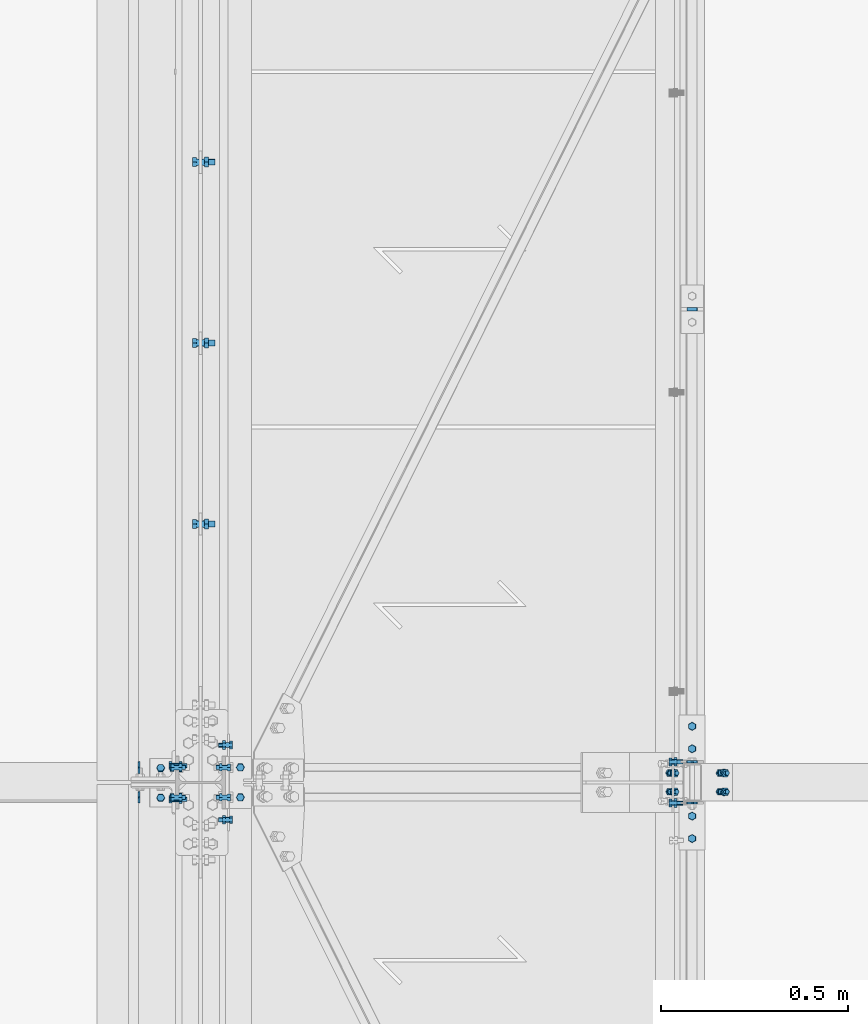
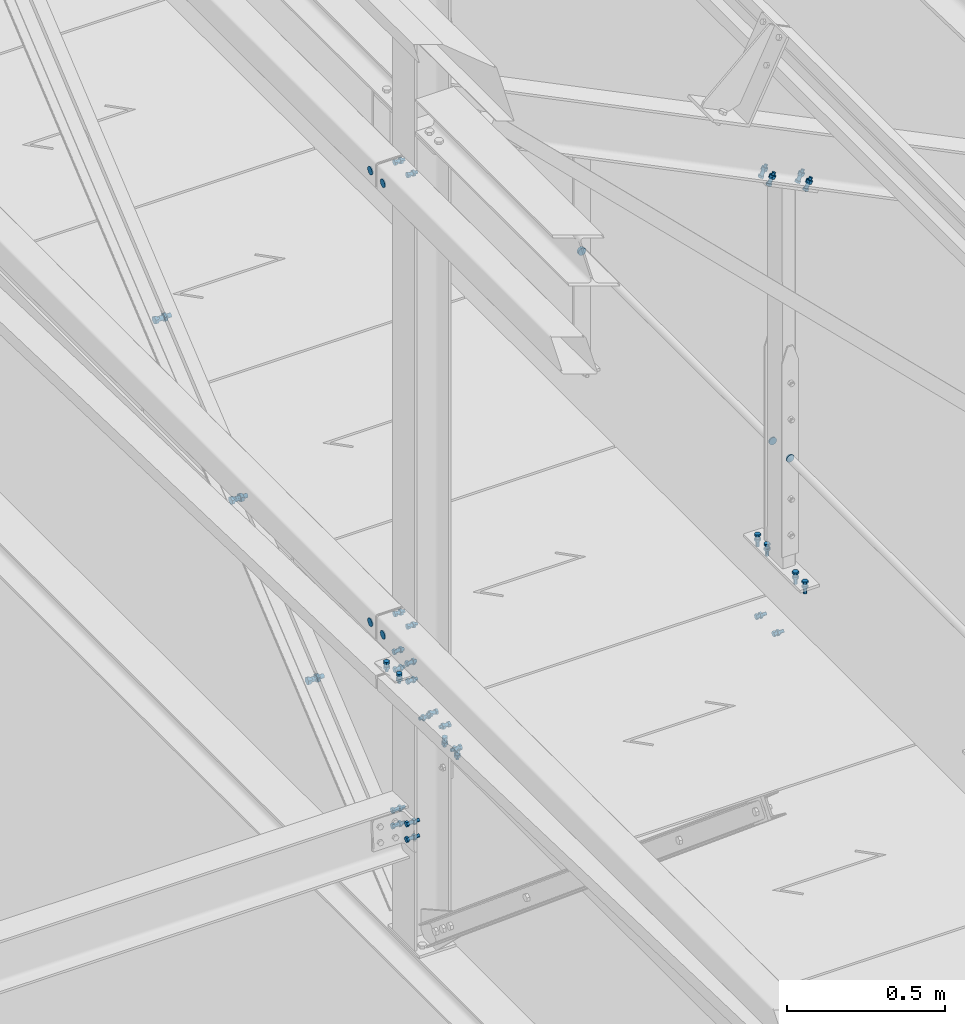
# One storey, part 324 of 362: 36 mechanical fasteners.
"""IFC2X3 building model written with IfcOpenShell, lengths in millimetres."""

from ifc_helpers import new_model, si_unit, frame, origin_with_axes, origin_2d_with_axis, place, context, subcontext, project, spatial, polyline, circle, outline, extrude, source, transform, mapped, material, type_object, element, save


model = new_model("IFC2X3")

# Units and contexts
model_context = context("Model", 3, precision=1e-05, world=origin_with_axes())
body_context = subcontext(model_context, "Body", "Model", "MODEL_VIEW")
ifc_project = project(units=[si_unit("LENGTHUNIT", "METRE", prefix="MILLI"), si_unit("AREAUNIT", "SQUARE_METRE"), si_unit("VOLUMEUNIT", "CUBIC_METRE"), si_unit("MASSUNIT", "GRAM", prefix="KILO"), si_unit("TIMEUNIT", "SECOND"), si_unit("PLANEANGLEUNIT", "RADIAN"), si_unit("SOLIDANGLEUNIT", "STERADIAN"), si_unit("THERMODYNAMICTEMPERATUREUNIT", "DEGREE_CELSIUS"), si_unit("LUMINOUSINTENSITYUNIT", "LUMEN")], contexts=[model_context])

# Site, building, storey
site_placement = place(None, origin_with_axes())
site = spatial("IfcSite", under=ifc_project, at=site_placement, Name="Undefined", CompositionType="ELEMENT")
building_placement = place(site_placement, origin_with_axes())
building = spatial("IfcBuilding", under=site, at=building_placement, Name="Undefined", CompositionType="ELEMENT")
storey_placement = place(building_placement, origin_with_axes())
storey = spatial("IfcBuildingStorey", under=building, at=storey_placement, Name="Undefined", CompositionType="ELEMENT", Elevation=0.0)

# Mechanical fasteners
ifc_material_1 = material(Name="6.8")
mechanical_fastener_type = type_object("IfcMechanicalFastenerType", Name="Bolt assembly")
shared_shape_1 = source(origin_with_axes(), body_context, "Body", "SweptSolid", [
    extrude(circle(Radius=15.0, at=origin_2d_with_axis()), frame((0.0, 0.0, 0.0), z_axis=(0.0, 1.0, 0.0), x_axis=(1.0, 0.0, 0.0)), (0.0, 0.0, 1.0), 4.1),
])
for number, where, z_axis, x_axis, name in (
    (1, (34113.4999999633, 7639.99203703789, 10245.0), (0.0, 1.0, 0.0), (0.0, 0.0, 1.0), "Bolt assembly"),
    (2, (34113.4999999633, 7560.0, 10245.0), (0.0, 1.0, 0.0), (0.0, 0.0, 1.0), "Bolt assembly"),
):
    element("IfcMechanicalFastener", number, at=place(storey_placement, frame(where, z_axis=z_axis, x_axis=x_axis)), inside=storey, type_object=mechanical_fastener_type, material=ifc_material_1, Name=name, NominalDiameter=30.0, NominalLength=4.0, context=body_context, shape_type="MappedRepresentation", body=[
        mapped(shared_shape_1, transform((0.0, 0.0, 0.0))),
    ])
ifc_material_2 = material(Name="8.8-SB-ZINGUE")
shared_shape_2 = source(origin_with_axes(), body_context, "Body", "SweptSolid", [
    extrude(circle(Radius=9.0, at=origin_2d_with_axis()), frame((0.0, -10.9000000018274, 0.0), z_axis=(0.0, 1.0, 0.0), x_axis=(1.0, 0.0, 0.0)), (0.0, 0.0, 1.0), 6.0),
    extrude(circle(Radius=9.0, at=origin_2d_with_axis()), frame((0.0, 4.9000000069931, 0.0), z_axis=(0.0, 1.0, 0.0), x_axis=(1.0, 0.0, 0.0)), (0.0, 0.0, 1.0), 6.1),
    extrude(circle(Radius=9.0, at=origin_2d_with_axis()), frame((0.0, -3.99999923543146, 0.0), z_axis=(0.0, 1.0, 0.0), x_axis=(1.0, 0.0, 0.0)), (0.0, 0.0, 1.0), 8.0),
    extrude(outline(polyline([(13.85640646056, 0.0), (6.92820323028, 12.0000000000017), (-6.92820323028, 12.0000000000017), (-13.85640646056, 0.0), (-6.92820323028, -12.0000000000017), (6.92820323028, -12.0000000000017), (13.85640646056, 0.0)])), frame((0.0, -21.5600000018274, 0.0), z_axis=(0.0, 1.0, 0.0), x_axis=(1.0, 0.0, 0.0)), (0.0, 0.0, 1.0), 10.56),
    extrude(circle(Radius=8.0, at=origin_2d_with_axis()), frame((0.0, -11.0000000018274, 0.0), z_axis=(0.0, 1.0, 0.0), x_axis=(1.0, 0.0, 0.0)), (0.0, 0.0, 1.0), 50.0),
    extrude(outline(polyline([(15.3344231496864, 0.0), (7.6672115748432, 13.2800000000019), (-7.6672115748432, 13.2800000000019), (-15.3344231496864, 0.0), (-7.6672115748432, -13.2800000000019), (7.6672115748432, -13.2800000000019), (15.3344231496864, 0.0)])), frame((0.0, 11.0000000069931, 0.0), z_axis=(0.0, 1.0, 0.0), x_axis=(1.0, 0.0, 0.0)), (0.0, 0.0, 1.0), 10.56),
])
for number, where, z_axis, x_axis, name in (
    (3, (34280.0, 8290.89269270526, 7826.89539649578), (0.0, 1.0, 0.0), (0.0, 0.0, 1.0), "Bolt assembly"),
    (4, (34280.0, 8774.53561582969, 8230.73723767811), (0.0, 1.0, 0.0), (0.0, 0.0, 1.0), "Bolt assembly"),
    (5, (34280.0, 9258.17853895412, 8634.57907886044), (0.0, 1.0, 0.0), (0.0, 0.0, 1.0), "Bolt assembly"),
):
    element("IfcMechanicalFastener", number, at=place(storey_placement, frame(where, z_axis=z_axis, x_axis=x_axis)), inside=storey, type_object=mechanical_fastener_type, material=ifc_material_2, Name=name, NominalDiameter=16.0, NominalLength=50.0, context=body_context, shape_type="MappedRepresentation", body=[
        mapped(shared_shape_2, transform((0.0, 0.0, 0.0))),
    ])
shared_shape_3 = source(origin_with_axes(), body_context, "Body", "SweptSolid", [
    extrude(circle(Radius=7.0, at=origin_2d_with_axis()), frame((0.0, -10.0000010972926, 0.0), z_axis=(0.0, 1.0, 0.0), x_axis=(1.0, 0.0, 0.0)), (0.0, 0.0, 1.0), 10.1),
    extrude(outline(polyline([(10.39230484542, 0.0), (5.19615242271, 9.00000000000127), (-5.19615242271, 9.00000000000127), (-10.39230484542, 0.0), (-5.19615242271, -9.00000000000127), (5.19615242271, -9.00000000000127), (10.39230484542, 0.0)])), frame((0.0, -17.92, 0.0), z_axis=(0.0, 1.0, 0.0), x_axis=(1.0, 0.0, 0.0)), (0.0, 0.0, 1.0), 7.92),
    extrude(circle(Radius=6.0, at=origin_2d_with_axis()), frame((0.0, -10.0000010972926, 0.0), z_axis=(0.0, 1.0, 0.0), x_axis=(1.0, 0.0, 0.0)), (0.0, 0.0, 1.0), 40.0),
    extrude(outline(polyline([(11.5008173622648, 0.0), (5.7504086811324, 9.96000000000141), (-5.7504086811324, 9.96000000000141), (-11.5008173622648, 0.0), (-5.7504086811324, -9.96000000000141), (5.7504086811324, -9.96000000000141), (11.5008173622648, 0.0)])), frame((0.0, 0.0, 0.0), z_axis=(0.0, 1.0, 0.0), x_axis=(1.0, 0.0, 0.0)), (0.0, 0.0, 1.0), 7.92),
])
for number, where, z_axis, x_axis, name in (
    (6, (35593.9917140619, 7750.00010620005, 8239.99999240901), (1.0, 0.0, 0.0), (0.0, -1.0, 0.0), "Bolt assembly"),
    (7, (35593.9917140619, 7450.00010619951, 8240.00002612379), (-1.0, 0.0, 0.0), (0.0, 1.0, 0.0), "Bolt assembly"),
):
    element("IfcMechanicalFastener", number, at=place(storey_placement, frame(where, z_axis=z_axis, x_axis=x_axis)), inside=storey, type_object=mechanical_fastener_type, material=ifc_material_2, Name=name, NominalDiameter=12.0, NominalLength=40.0, context=body_context, shape_type="MappedRepresentation", body=[
        mapped(shared_shape_3, transform((0.0, 0.0, 0.0))),
        mapped(shared_shape_3, transform((60.0, 0.0, 0.0))),
    ])
shared_shape_4 = source(origin_with_axes(), body_context, "Body", "SweptSolid", [
    extrude(circle(Radius=14.0, at=origin_2d_with_axis()), frame((0.0, -5.00000000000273, 0.0), z_axis=(0.0, 1.0, 0.0), x_axis=(1.0, 0.0, 0.0)), (0.0, 0.0, 1.0), 10.1),
])
mechanical_fastener_1_placement = place(storey_placement, frame((35593.9917179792, 8865.00343252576, 8673.8000011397), z_axis=(0.0, 0.0, 1.0), x_axis=(-1.0, 0.0, 0.0)))
element("IfcMechanicalFastener", 8, at=mechanical_fastener_1_placement, inside=storey, type_object=mechanical_fastener_type, material=ifc_material_1, Name="Bolt assembly", NominalDiameter=27.0, NominalLength=10.0, context=body_context, shape_type="MappedRepresentation", body=[
    mapped(shared_shape_4, transform((0.0, 0.0, 0.0))),
])
shared_shape_5 = source(origin_with_axes(), body_context, "Body", "SweptSolid", [
    extrude(circle(Radius=7.0, at=origin_2d_with_axis()), frame((0.0, -4.90000000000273, 0.0), z_axis=(0.0, 1.0, 0.0), x_axis=(1.0, 0.0, 0.0)), (0.0, 0.0, 1.0), 5.0),
    extrude(circle(Radius=7.0, at=origin_2d_with_axis()), frame((0.0, -0.100011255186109, 0.0), z_axis=(0.0, 1.0, 0.0), x_axis=(1.0, 0.0, 0.0)), (0.0, 0.0, 1.0), 7.1),
    extrude(outline(polyline([(10.39230484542, 0.0), (5.19615242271, 9.00000000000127), (-5.19615242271, 9.00000000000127), (-10.39230484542, 0.0), (-5.19615242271, -9.00000000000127), (5.19615242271, -9.00000000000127), (10.39230484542, 0.0)])), frame((0.0, -12.9200004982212, 0.0), z_axis=(0.0, 1.0, 0.0), x_axis=(1.0, 0.0, 0.0)), (0.0, 0.0, 1.0), 7.92),
    extrude(circle(Radius=6.0, at=origin_2d_with_axis()), frame((0.0, -5.00000000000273, 0.0), z_axis=(0.0, 1.0, 0.0), x_axis=(1.0, 0.0, 0.0)), (0.0, 0.0, 1.0), 30.0),
    extrude(outline(polyline([(11.5008173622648, 0.0), (5.7504086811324, 9.96000000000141), (-5.7504086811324, 9.96000000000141), (-11.5008173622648, 0.0), (-5.7504086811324, -9.96000000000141), (5.7504086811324, -9.96000000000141), (11.5008173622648, 0.0)])), frame((0.0, 7.0, 0.0), z_axis=(0.0, 1.0, 0.0), x_axis=(1.0, 0.0, 0.0)), (0.0, 0.0, 1.0), 7.92),
])
for number, where, z_axis, x_axis, name in (
    (9, (34386.5000576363, 7639.99999998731, 7950.00000000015), (0.0, -1.0, 0.0), (-1.0, 0.0, 0.0), "Bolt assembly"),
    (10, (34386.5000576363, 7559.99999998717, 7950.00000000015), (0.0, -1.0, 0.0), (-1.0, 0.0, 0.0), "Bolt assembly"),
):
    element("IfcMechanicalFastener", number, at=place(storey_placement, frame(where, z_axis=z_axis, x_axis=x_axis)), inside=storey, type_object=mechanical_fastener_type, material=ifc_material_2, Name=name, NominalDiameter=12.0, NominalLength=30.0, context=body_context, shape_type="MappedRepresentation", body=[
        mapped(shared_shape_5, transform((0.0, 0.0, 0.0))),
    ])
shared_shape_6 = source(origin_with_axes(), body_context, "Body", "SweptSolid", [
    extrude(circle(Radius=14.0, at=origin_2d_with_axis()), frame((0.0, -2.5, 0.0), z_axis=(0.0, 1.0, 0.0), x_axis=(1.0, 0.0, 0.0)), (0.0, 0.0, 1.0), 5.1),
])
for number, where, z_axis, x_axis, name in (
    (11, (35593.9917170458, 7544.99999422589, 8673.80000207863), (0.0, 0.0, 1.0), (-1.0, 0.0, 0.0), "Bolt assembly"),
    (12, (35593.9917171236, 7654.99999421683, 8673.80000200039), (0.0, 0.0, 1.0), (-1.0, 0.0, 0.0), "Bolt assembly"),
):
    element("IfcMechanicalFastener", number, at=place(storey_placement, frame(where, z_axis=z_axis, x_axis=x_axis)), inside=storey, type_object=mechanical_fastener_type, material=ifc_material_1, Name=name, NominalDiameter=27.0, NominalLength=10.0, context=body_context, shape_type="MappedRepresentation", body=[
        mapped(shared_shape_6, transform((0.0, 0.0, 0.0))),
    ])
shared_shape_7 = source(origin_with_axes(), body_context, "Body", "SweptSolid", [
    extrude(circle(Radius=7.0, at=origin_2d_with_axis()), frame((0.0, -0.100011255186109, 0.0), z_axis=(0.0, 1.0, 0.0), x_axis=(1.0, 0.0, 0.0)), (0.0, 0.0, 1.0), 8.6),
    extrude(circle(Radius=7.0, at=origin_2d_with_axis()), frame((0.0, -9.9, 0.0), z_axis=(0.0, 1.0, 0.0), x_axis=(1.0, 0.0, 0.0)), (0.0, 0.0, 1.0), 10.0),
    extrude(outline(polyline([(10.39230484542, 0.0), (5.19615242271, 9.00000000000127), (-5.19615242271, 9.00000000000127), (-10.39230484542, 0.0), (-5.19615242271, -9.00000000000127), (5.19615242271, -9.00000000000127), (10.39230484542, 0.0)])), frame((0.0, -17.92, 0.0), z_axis=(0.0, 1.0, 0.0), x_axis=(1.0, 0.0, 0.0)), (0.0, 0.0, 1.0), 7.92),
    extrude(circle(Radius=6.0, at=origin_2d_with_axis()), frame((0.0, -10.0000010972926, 0.0), z_axis=(0.0, 1.0, 0.0), x_axis=(1.0, 0.0, 0.0)), (0.0, 0.0, 1.0), 40.0),
    extrude(circle(Radius=10.8, at=origin_2d_with_axis()), frame((0.0, 8.49999994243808, 0.0), z_axis=(0.0, 1.0, 0.0), x_axis=(1.0, 0.0, 0.0)), (0.0, 0.0, 1.0), 3.96),
    extrude(outline(polyline([(11.5008173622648, 0.0), (5.7504086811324, 9.96000000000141), (-5.7504086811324, 9.96000000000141), (-11.5008173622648, 0.0), (-5.7504086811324, -9.96000000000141), (5.7504086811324, -9.96000000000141), (11.5008173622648, 0.0)])), frame((0.0, 12.4599999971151, 0.0), z_axis=(0.0, 1.0, 0.0), x_axis=(1.0, 0.0, 0.0)), (0.0, 0.0, 1.0), 7.92),
])
for number, where, z_axis, x_axis, name in (
    (13, (35674.7575800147, 7600.00000000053, 9681.7944284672), (0.0, 1.0, 0.0), (-0.897398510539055, -1.29999898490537e-08, 0.441220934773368), "Bolt assembly"),
    (14, (35540.1478034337, 7600.00000000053, 9747.97756868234), (0.0, -1.0, 0.0), (0.897398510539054, 0.0, -0.44122093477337), "Bolt assembly"),
):
    element("IfcMechanicalFastener", number, at=place(storey_placement, frame(where, z_axis=z_axis, x_axis=x_axis)), inside=storey, type_object=mechanical_fastener_type, material=ifc_material_2, Name=name, NominalDiameter=12.0, NominalLength=40.0, context=body_context, shape_type="MappedRepresentation", body=[
        mapped(shared_shape_7, transform((0.0, 0.0, -25.0))),
        mapped(shared_shape_7, transform((0.0, 0.0, 25.0))),
    ])
shared_shape_8 = source(origin_with_axes(), body_context, "Body", "SweptSolid", [
    extrude(circle(Radius=7.0, at=origin_2d_with_axis()), frame((0.0, -6.5, 0.0), z_axis=(0.0, 1.0, 0.0), x_axis=(1.0, 0.0, 0.0)), (0.0, 0.0, 1.0), 6.1),
    extrude(outline(polyline([(10.39230484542, 0.0), (5.19615242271, 9.00000000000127), (-5.19615242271, 9.00000000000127), (-10.39230484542, 0.0), (-5.19615242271, -9.00000000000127), (5.19615242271, -9.00000000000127), (10.39230484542, 0.0)])), frame((0.0, -14.42, 0.0), z_axis=(0.0, 1.0, 0.0), x_axis=(1.0, 0.0, 0.0)), (0.0, 0.0, 1.0), 7.92),
    extrude(circle(Radius=6.0, at=origin_2d_with_axis()), frame((0.0, -6.5, 0.0), z_axis=(0.0, 1.0, 0.0), x_axis=(1.0, 0.0, 0.0)), (0.0, 0.0, 1.0), 30.0),
    extrude(outline(polyline([(11.5008173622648, 0.0), (5.7504086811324, 9.96000000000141), (-5.7504086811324, 9.96000000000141), (-11.5008173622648, 0.0), (-5.7504086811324, -9.96000000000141), (5.7504086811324, -9.96000000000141), (11.5008173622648, 0.0)])), frame((0.0, -0.5, 0.0), z_axis=(0.0, 1.0, 0.0), x_axis=(1.0, 0.0, 0.0)), (0.0, 0.0, 1.0), 7.92),
])
for number, where, z_axis, x_axis, name in (
    (15, (35546.4917140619, 7654.99999063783, 8015.00000000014), (0.0, 0.0, 1.0), (0.0, -1.0, 0.0), "Bolt assembly"),
    (16, (35546.4917140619, 7544.99999998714, 8015.00000000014), (0.0, 0.0, -1.0), (0.0, 1.0, 0.0), "Bolt assembly"),
):
    element("IfcMechanicalFastener", number, at=place(storey_placement, frame(where, z_axis=z_axis, x_axis=x_axis)), inside=storey, type_object=mechanical_fastener_type, material=ifc_material_2, Name=name, NominalDiameter=12.0, NominalLength=30.0, context=body_context, shape_type="MappedRepresentation", body=[
        mapped(shared_shape_8, transform((0.0, 0.0, 0.0))),
    ])
shared_shape_9 = source(origin_with_axes(), body_context, "Body", "SweptSolid", [
    extrude(circle(Radius=7.0, at=origin_2d_with_axis()), frame((0.0, -0.108038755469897, 0.0), z_axis=(0.0, 1.0, 0.0), x_axis=(1.0, 0.0, 0.0)), (0.0, 0.0, 1.0), 5.1),
    extrude(circle(Radius=7.0, at=origin_2d_with_axis()), frame((0.0, -6.4, 0.0), z_axis=(0.0, 1.0, 0.0), x_axis=(1.0, 0.0, 0.0)), (0.0, 0.0, 1.0), 6.0),
    extrude(outline(polyline([(10.39230484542, 0.0), (5.19615242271, 9.00000000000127), (-5.19615242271, 9.00000000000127), (-10.39230484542, 0.0), (-5.19615242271, -9.00000000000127), (5.19615242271, -9.00000000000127), (10.39230484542, 0.0)])), frame((0.0, -14.42, 0.0), z_axis=(0.0, 1.0, 0.0), x_axis=(1.0, 0.0, 0.0)), (0.0, 0.0, 1.0), 7.92),
    extrude(circle(Radius=6.0, at=origin_2d_with_axis()), frame((0.0, -6.5, 0.0), z_axis=(0.0, 1.0, 0.0), x_axis=(1.0, 0.0, 0.0)), (0.0, 0.0, 1.0), 30.0),
    extrude(outline(polyline([(11.5008173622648, 0.0), (5.7504086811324, 9.96000000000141), (-5.7504086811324, 9.96000000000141), (-11.5008173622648, 0.0), (-5.7504086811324, -9.96000000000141), (5.7504086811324, -9.96000000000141), (11.5008173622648, 0.0)])), frame((0.0, 4.99200112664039, 0.0), z_axis=(0.0, 1.0, 0.0), x_axis=(1.0, 0.0, 0.0)), (0.0, 0.0, 1.0), 7.92),
])
for number, where, z_axis, x_axis, name in (
    (17, (34351.491943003, 7699.99999998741, 8015.00000000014), (0.0, 0.0, -1.0), (0.0, -1.0, 0.0), "Bolt assembly"),
    (18, (34351.491943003, 7499.99999998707, 8015.00000000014), (0.0, 0.0, 1.0), (0.0, 1.0, 0.0), "Bolt assembly"),
):
    element("IfcMechanicalFastener", number, at=place(storey_placement, frame(where, z_axis=z_axis, x_axis=x_axis)), inside=storey, type_object=mechanical_fastener_type, material=ifc_material_2, Name=name, NominalDiameter=12.0, NominalLength=30.0, context=body_context, shape_type="MappedRepresentation", body=[
        mapped(shared_shape_9, transform((0.0, 0.0, 0.0))),
    ])
shared_shape_10 = source(origin_with_axes(), body_context, "Body", "SweptSolid", [
    extrude(circle(Radius=7.0, at=origin_2d_with_axis()), frame((0.0, -0.0999426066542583, 0.0), z_axis=(0.0, 1.0, 0.0), x_axis=(1.0, 0.0, 0.0)), (0.0, 0.0, 1.0), 8.6),
    extrude(circle(Radius=7.0, at=origin_2d_with_axis()), frame((0.0, -4.89988938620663, 0.0), z_axis=(0.0, 1.0, 0.0), x_axis=(1.0, 0.0, 0.0)), (0.0, 0.0, 1.0), 5.0),
    extrude(outline(polyline([(10.39230484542, 0.0), (5.19615242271, 9.00000000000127), (-5.19615242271, 9.00000000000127), (-10.39230484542, 0.0), (-5.19615242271, -9.00000000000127), (5.19615242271, -9.00000000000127), (10.39230484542, 0.0)])), frame((0.0, -12.9198893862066, 0.0), z_axis=(0.0, 1.0, 0.0), x_axis=(1.0, 0.0, 0.0)), (0.0, 0.0, 1.0), 7.92),
    extrude(circle(Radius=6.0, at=origin_2d_with_axis()), frame((0.0, -4.99988938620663, 0.0), z_axis=(0.0, 1.0, 0.0), x_axis=(1.0, 0.0, 0.0)), (0.0, 0.0, 1.0), 30.0),
    extrude(outline(polyline([(11.5008173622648, 0.0), (5.7504086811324, 9.96000000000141), (-5.7504086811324, 9.96000000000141), (-11.5008173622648, 0.0), (-5.7504086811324, -9.96000000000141), (5.7504086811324, -9.96000000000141), (11.5008173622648, 0.0)])), frame((0.0, 8.50005763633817, 0.0), z_axis=(0.0, 1.0, 0.0), x_axis=(1.0, 0.0, 0.0)), (0.0, 0.0, 1.0), 7.92),
])
for number, where, z_axis, x_axis, name in (
    (19, (34346.5000576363, 7560.00000098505, 8070.00000000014), (0.0, 1.0, 0.0), (0.0, 0.0, -1.0), "Bolt assembly"),
    (20, (34346.5000576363, 7640.00000098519, 8070.00000000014), (0.0, 1.0, 0.0), (0.0, 0.0, -1.0), "Bolt assembly"),
):
    element("IfcMechanicalFastener", number, at=place(storey_placement, frame(where, z_axis=z_axis, x_axis=x_axis)), inside=storey, type_object=mechanical_fastener_type, material=ifc_material_2, Name=name, NominalDiameter=12.0, NominalLength=30.0, context=body_context, shape_type="MappedRepresentation", body=[
        mapped(shared_shape_10, transform((0.0, 0.0, 0.0))),
    ])
shared_shape_11 = source(origin_with_axes(), body_context, "Body", "SweptSolid", [
    extrude(circle(Radius=15.0, at=origin_2d_with_axis()), frame((0.0, -0.000130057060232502, 0.0), z_axis=(0.0, 1.0, 0.0), x_axis=(1.0, 0.0, 0.0)), (0.0, 0.0, 1.0), 4.1),
])
for number, where, z_axis, x_axis, name in (
    (21, (34113.5001162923, 7639.99203703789, 8500.0), (0.0, -1.0, 0.0), (0.0, 0.0, -1.0), "Bolt assembly"),
    (22, (34113.5001162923, 7560.0, 8500.0), (0.0, -1.0, 0.0), (0.0, 0.0, -1.0), "Bolt assembly"),
):
    element("IfcMechanicalFastener", number, at=place(storey_placement, frame(where, z_axis=z_axis, x_axis=x_axis)), inside=storey, type_object=mechanical_fastener_type, material=ifc_material_1, Name=name, NominalDiameter=30.0, NominalLength=4.0, context=body_context, shape_type="MappedRepresentation", body=[
        mapped(shared_shape_11, transform((0.0, 0.0, 0.0))),
    ])
shared_shape_12 = source(origin_with_axes(), body_context, "Body", "SweptSolid", [
    extrude(circle(Radius=7.0, at=origin_2d_with_axis()), frame((0.0, -1.35617756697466, 0.0), z_axis=(0.0, 1.0, 0.0), x_axis=(1.0, 0.0, 0.0)), (0.0, 0.0, 1.0), 4.1),
    extrude(circle(Radius=7.0, at=origin_2d_with_axis()), frame((0.0, -8.15617756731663, 0.0), z_axis=(0.0, 1.0, 0.0), x_axis=(1.0, 0.0, 0.0)), (0.0, 0.0, 1.0), 7.0),
    extrude(outline(polyline([(10.39230484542, 0.0), (5.19615242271, 9.00000000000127), (-5.19615242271, 9.00000000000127), (-10.39230484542, 0.0), (-5.19615242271, -9.00000000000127), (5.19615242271, -9.00000000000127), (10.39230484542, 0.0)])), frame((0.0, -16.1761775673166, 0.0), z_axis=(0.0, 1.0, 0.0), x_axis=(1.0, 0.0, 0.0)), (0.0, 0.0, 1.0), 7.92),
    extrude(circle(Radius=6.0, at=origin_2d_with_axis()), frame((0.0, -8.25617756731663, 0.0), z_axis=(0.0, 1.0, 0.0), x_axis=(1.0, 0.0, 0.0)), (0.0, 0.0, 1.0), 30.0),
    extrude(outline(polyline([(11.5008173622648, 0.0), (5.7504086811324, 9.96000000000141), (-5.7504086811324, 9.96000000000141), (-11.5008173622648, 0.0), (-5.7504086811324, -9.96000000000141), (5.7504086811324, -9.96000000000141), (11.5008173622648, 0.0)])), frame((0.0, 2.74382243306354, 0.0), z_axis=(0.0, 1.0, 0.0), x_axis=(1.0, 0.0, 0.0)), (0.0, 0.0, 1.0), 7.92),
])
mechanical_fastener_2_placement = place(storey_placement, frame((34173.5002326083, 7638.67387847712, 8313.9623821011), z_axis=(0.0, 0.999506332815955, -0.0314179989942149), x_axis=(1.0, 0.0, 0.0)))
element("IfcMechanicalFastener", 23, at=mechanical_fastener_2_placement, inside=storey, type_object=mechanical_fastener_type, material=ifc_material_2, Name="Bolt assembly", NominalDiameter=12.0, NominalLength=30.0, context=body_context, shape_type="MappedRepresentation", body=[
    mapped(shared_shape_12, transform((0.0, 0.0, 0.0))),
])
shared_shape_13 = source(origin_with_axes(), body_context, "Body", "SweptSolid", [
    extrude(circle(Radius=7.0, at=origin_2d_with_axis()), frame((0.0, -1.35662777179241, 0.0), z_axis=(0.0, 1.0, 0.0), x_axis=(1.0, 0.0, 0.0)), (0.0, 0.0, 1.0), 4.1),
    extrude(circle(Radius=7.0, at=origin_2d_with_axis()), frame((0.0, -8.15654244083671, 0.0), z_axis=(0.0, 1.0, 0.0), x_axis=(1.0, 0.0, 0.0)), (0.0, 0.0, 1.0), 7.0),
    extrude(outline(polyline([(10.39230484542, 0.0), (5.19615242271, 9.00000000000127), (-5.19615242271, 9.00000000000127), (-10.39230484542, 0.0), (-5.19615242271, -9.00000000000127), (5.19615242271, -9.00000000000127), (10.39230484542, 0.0)])), frame((0.0, -16.1765424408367, 0.0), z_axis=(0.0, 1.0, 0.0), x_axis=(1.0, 0.0, 0.0)), (0.0, 0.0, 1.0), 7.92),
    extrude(circle(Radius=6.0, at=origin_2d_with_axis()), frame((0.0, -8.25654244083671, 0.0), z_axis=(0.0, 1.0, 0.0), x_axis=(1.0, 0.0, 0.0)), (0.0, 0.0, 1.0), 30.0),
    extrude(outline(polyline([(11.5008173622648, 0.0), (5.7504086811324, 9.96000000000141), (-5.7504086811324, 9.96000000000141), (-11.5008173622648, 0.0), (-5.7504086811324, -9.96000000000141), (5.7504086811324, -9.96000000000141), (11.5008173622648, 0.0)])), frame((0.0, 2.74337222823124, 0.0), z_axis=(0.0, 1.0, 0.0), x_axis=(1.0, 0.0, 0.0)), (0.0, 0.0, 1.0), 7.92),
])
mechanical_fastener_3_placement = place(storey_placement, frame((34173.5002326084, 7558.74345570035, 8316.47415606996), z_axis=(3.14103090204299e-11, 0.999506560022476, -0.0314107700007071), x_axis=(1.0, 0.0, 0.0)))
element("IfcMechanicalFastener", 24, at=mechanical_fastener_3_placement, inside=storey, type_object=mechanical_fastener_type, material=ifc_material_2, Name="Bolt assembly", NominalDiameter=12.0, NominalLength=30.0, context=body_context, shape_type="MappedRepresentation", body=[
    mapped(shared_shape_13, transform((0.0, 0.0, 0.0))),
])
shared_shape_14 = source(origin_with_axes(), body_context, "Body", "SweptSolid", [
    extrude(circle(Radius=7.0, at=origin_2d_with_axis()), frame((0.0, -0.10007666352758, 0.0), z_axis=(0.0, 1.0, 0.0), x_axis=(1.0, 0.0, 0.0)), (0.0, 0.0, 1.0), 8.6),
    extrude(circle(Radius=7.0, at=origin_2d_with_axis()), frame((0.0, -6.9, 0.0), z_axis=(0.0, 1.0, 0.0), x_axis=(1.0, 0.0, 0.0)), (0.0, 0.0, 1.0), 7.0),
    extrude(outline(polyline([(10.39230484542, 0.0), (5.19615242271, 9.00000000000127), (-5.19615242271, 9.00000000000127), (-10.39230484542, 0.0), (-5.19615242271, -9.00000000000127), (5.19615242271, -9.00000000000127), (10.39230484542, 0.0)])), frame((0.0, -14.92, 0.0), z_axis=(0.0, 1.0, 0.0), x_axis=(1.0, 0.0, 0.0)), (0.0, 0.0, 1.0), 7.92),
    extrude(circle(Radius=6.0, at=origin_2d_with_axis()), frame((0.0, -7.0, 0.0), z_axis=(0.0, 1.0, 0.0), x_axis=(1.0, 0.0, 0.0)), (0.0, 0.0, 1.0), 30.0),
    extrude(outline(polyline([(11.5008173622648, 0.0), (5.7504086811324, 9.96000000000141), (-5.7504086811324, 9.96000000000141), (-11.5008173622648, 0.0), (-5.7504086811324, -9.96000000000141), (5.7504086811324, -9.96000000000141), (11.5008173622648, 0.0)])), frame((0.0, 8.49988372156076, 0.0), z_axis=(0.0, 1.0, 0.0), x_axis=(1.0, 0.0, 0.0)), (0.0, 0.0, 1.0), 7.92),
])
for number, where, z_axis, x_axis, name in (
    (25, (34213.5001162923, 7639.99999815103, 8355.19725207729), (0.0, 0.0, -1.0), (0.0, 1.0, 0.0), "Bolt assembly"),
    (26, (34213.5001162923, 7559.99999815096, 8357.71157784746), (0.0, 0.0, 1.0), (0.0, -1.0, 0.0), "Bolt assembly"),
):
    element("IfcMechanicalFastener", number, at=place(storey_placement, frame(where, z_axis=z_axis, x_axis=x_axis)), inside=storey, type_object=mechanical_fastener_type, material=ifc_material_2, Name=name, NominalDiameter=12.0, NominalLength=30.0, context=body_context, shape_type="MappedRepresentation", body=[
        mapped(shared_shape_14, transform((0.0, 0.0, 0.0))),
    ])
shared_shape_15 = source(origin_with_axes(), body_context, "Body", "SweptSolid", [
    extrude(circle(Radius=7.0, at=origin_2d_with_axis()), frame((0.0, -0.10007666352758, 0.0), z_axis=(0.0, 1.0, 0.0), x_axis=(1.0, 0.0, 0.0)), (0.0, 0.0, 1.0), 8.6),
    extrude(circle(Radius=7.0, at=origin_2d_with_axis()), frame((0.0, -3.89999843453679, 0.0), z_axis=(0.0, 1.0, 0.0), x_axis=(1.0, 0.0, 0.0)), (0.0, 0.0, 1.0), 4.0),
    extrude(outline(polyline([(10.39230484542, 0.0), (5.19615242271, 9.00000000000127), (-5.19615242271, 9.00000000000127), (-10.39230484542, 0.0), (-5.19615242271, -9.00000000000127), (5.19615242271, -9.00000000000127), (10.39230484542, 0.0)])), frame((0.0, -11.9199984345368, 0.0), z_axis=(0.0, 1.0, 0.0), x_axis=(1.0, 0.0, 0.0)), (0.0, 0.0, 1.0), 7.92),
    extrude(circle(Radius=6.0, at=origin_2d_with_axis()), frame((0.0, -3.99999923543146, 0.0), z_axis=(0.0, 1.0, 0.0), x_axis=(1.0, 0.0, 0.0)), (0.0, 0.0, 1.0), 30.0),
    extrude(outline(polyline([(11.5008173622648, 0.0), (5.7504086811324, 9.96000000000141), (-5.7504086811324, 9.96000000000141), (-11.5008173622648, 0.0), (-5.7504086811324, -9.96000000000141), (5.7504086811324, -9.96000000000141), (11.5008173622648, 0.0)])), frame((0.0, 8.49988372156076, 0.0), z_axis=(0.0, 1.0, 0.0), x_axis=(1.0, 0.0, 0.0)), (0.0, 0.0, 1.0), 7.92),
])
for number, where, z_axis, x_axis, name in (
    (27, (34213.5001162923, 7639.99989873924, 8285.15958067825), (0.0, 0.0, -1.0), (0.0, 1.0, 0.0), "Bolt assembly"),
    (28, (34213.5001162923, 7559.99989873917, 8287.67390644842), (0.0, 0.0, 1.0), (0.0, -1.0, 0.0), "Bolt assembly"),
):
    element("IfcMechanicalFastener", number, at=place(storey_placement, frame(where, z_axis=z_axis, x_axis=x_axis)), inside=storey, type_object=mechanical_fastener_type, material=ifc_material_2, Name=name, NominalDiameter=12.0, NominalLength=30.0, context=body_context, shape_type="MappedRepresentation", body=[
        mapped(shared_shape_15, transform((0.0, 0.0, 0.0))),
    ])
shared_shape_16 = source(origin_with_axes(), body_context, "Body", "SweptSolid", [
    extrude(circle(Radius=7.0, at=origin_2d_with_axis()), frame((0.0, -0.10007666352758, 0.0), z_axis=(0.0, 1.0, 0.0), x_axis=(1.0, 0.0, 0.0)), (0.0, 0.0, 1.0), 8.6),
    extrude(circle(Radius=7.0, at=origin_2d_with_axis()), frame((0.0, -3.90012822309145, 0.0), z_axis=(0.0, 1.0, 0.0), x_axis=(1.0, 0.0, 0.0)), (0.0, 0.0, 1.0), 4.0),
    extrude(outline(polyline([(10.39230484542, 0.0), (5.19615242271, 9.00000000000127), (-5.19615242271, 9.00000000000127), (-10.39230484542, 0.0), (-5.19615242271, -9.00000000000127), (5.19615242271, -9.00000000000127), (10.39230484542, 0.0)])), frame((0.0, -11.9201282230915, 0.0), z_axis=(0.0, 1.0, 0.0), x_axis=(1.0, 0.0, 0.0)), (0.0, 0.0, 1.0), 7.92),
    extrude(circle(Radius=6.0, at=origin_2d_with_axis()), frame((0.0, -4.00012822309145, 0.0), z_axis=(0.0, 1.0, 0.0), x_axis=(1.0, 0.0, 0.0)), (0.0, 0.0, 1.0), 30.0),
    extrude(outline(polyline([(11.5008173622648, 0.0), (5.7504086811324, 9.96000000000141), (-5.7504086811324, 9.96000000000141), (-11.5008173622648, 0.0), (-5.7504086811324, -9.96000000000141), (5.7504086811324, -9.96000000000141), (11.5008173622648, 0.0)])), frame((0.0, 8.49988372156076, 0.0), z_axis=(0.0, 1.0, 0.0), x_axis=(1.0, 0.0, 0.0)), (0.0, 0.0, 1.0), 7.92),
])
for number, where, z_axis, x_axis, name in (
    (29, (34213.5001162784, 7640.0, 8500.00000188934), (0.0, -1.0, 0.0), (0.0, 0.0, -1.0), "Bolt assembly"),
    (30, (34213.5001162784, 7560.0, 8500.00000188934), (0.0, -1.0, 0.0), (0.0, 0.0, -1.0), "Bolt assembly"),
):
    element("IfcMechanicalFastener", number, at=place(storey_placement, frame(where, z_axis=z_axis, x_axis=x_axis)), inside=storey, type_object=mechanical_fastener_type, material=ifc_material_2, Name=name, NominalDiameter=12.0, NominalLength=30.0, context=body_context, shape_type="MappedRepresentation", body=[
        mapped(shared_shape_16, transform((0.0, 0.0, 0.0))),
    ])
shared_shape_17 = source(origin_with_axes(), body_context, "Body", "SweptSolid", [
    extrude(circle(Radius=7.0, at=origin_2d_with_axis()), frame((0.0, -0.100011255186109, 0.0), z_axis=(0.0, 1.0, 0.0), x_axis=(1.0, 0.0, 0.0)), (0.0, 0.0, 1.0), 8.6),
    extrude(circle(Radius=7.0, at=origin_2d_with_axis()), frame((0.0, -3.89999843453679, 0.0), z_axis=(0.0, 1.0, 0.0), x_axis=(1.0, 0.0, 0.0)), (0.0, 0.0, 1.0), 4.0),
    extrude(outline(polyline([(10.39230484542, 0.0), (5.19615242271, 9.00000000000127), (-5.19615242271, 9.00000000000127), (-10.39230484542, 0.0), (-5.19615242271, -9.00000000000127), (5.19615242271, -9.00000000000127), (10.39230484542, 0.0)])), frame((0.0, -11.9199984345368, 0.0), z_axis=(0.0, 1.0, 0.0), x_axis=(1.0, 0.0, 0.0)), (0.0, 0.0, 1.0), 7.92),
    extrude(circle(Radius=6.0, at=origin_2d_with_axis()), frame((0.0, -3.99999923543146, 0.0), z_axis=(0.0, 1.0, 0.0), x_axis=(1.0, 0.0, 0.0)), (0.0, 0.0, 1.0), 30.0),
    extrude(outline(polyline([(11.5008173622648, 0.0), (5.7504086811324, 9.96000000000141), (-5.7504086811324, 9.96000000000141), (-11.5008173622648, 0.0), (-5.7504086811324, -9.96000000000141), (5.7504086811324, -9.96000000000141), (11.5008173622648, 0.0)])), frame((0.0, 8.49999994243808, 0.0), z_axis=(0.0, 1.0, 0.0), x_axis=(1.0, 0.0, 0.0)), (0.0, 0.0, 1.0), 7.92),
])
for number, where, z_axis, x_axis, name in (
    (31, (34213.4999999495, 7640.0, 10244.9999981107), (0.0, 1.0, 0.0), (0.0, 0.0, 1.0), "Bolt assembly"),
    (32, (34213.4999999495, 7560.0, 10244.9999981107), (0.0, 1.0, 0.0), (0.0, 0.0, 1.0), "Bolt assembly"),
):
    element("IfcMechanicalFastener", number, at=place(storey_placement, frame(where, z_axis=z_axis, x_axis=x_axis)), inside=storey, type_object=mechanical_fastener_type, material=ifc_material_2, Name=name, NominalDiameter=12.0, NominalLength=30.0, context=body_context, shape_type="MappedRepresentation", body=[
        mapped(shared_shape_17, transform((0.0, 0.0, 0.0))),
    ])
shared_shape_18 = source(origin_with_axes(), body_context, "Body", "SweptSolid", [
    extrude(circle(Radius=7.0, at=origin_2d_with_axis()), frame((0.0, -0.100011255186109, 0.0), z_axis=(0.0, 1.0, 0.0), x_axis=(1.0, 0.0, 0.0)), (0.0, 0.0, 1.0), 8.6),
    extrude(circle(Radius=7.0, at=origin_2d_with_axis()), frame((0.0, -9.9, 0.0), z_axis=(0.0, 1.0, 0.0), x_axis=(1.0, 0.0, 0.0)), (0.0, 0.0, 1.0), 10.0),
    extrude(outline(polyline([(10.39230484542, 0.0), (5.19615242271, 9.00000000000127), (-5.19615242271, 9.00000000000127), (-10.39230484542, 0.0), (-5.19615242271, -9.00000000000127), (5.19615242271, -9.00000000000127), (10.39230484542, 0.0)])), frame((0.0, -17.92, 0.0), z_axis=(0.0, 1.0, 0.0), x_axis=(1.0, 0.0, 0.0)), (0.0, 0.0, 1.0), 7.92),
    extrude(circle(Radius=6.0, at=origin_2d_with_axis()), frame((0.0, -10.0000010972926, 0.0), z_axis=(0.0, 1.0, 0.0), x_axis=(1.0, 0.0, 0.0)), (0.0, 0.0, 1.0), 40.0),
    extrude(outline(polyline([(11.5008173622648, 0.0), (5.7504086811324, 9.96000000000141), (-5.7504086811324, 9.96000000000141), (-11.5008173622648, 0.0), (-5.7504086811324, -9.96000000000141), (5.7504086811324, -9.96000000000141), (11.5008173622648, 0.0)])), frame((0.0, 8.49999994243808, 0.0), z_axis=(0.0, 1.0, 0.0), x_axis=(1.0, 0.0, 0.0)), (0.0, 0.0, 1.0), 7.92),
])
for number, where, z_axis, x_axis, name in (
    (33, (34213.5000013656, 7645.00005424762, 7739.71154918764), (0.0, 0.0, -1.0), (0.0, 1.0, 0.0), "Bolt assembly"),
    (34, (34213.5000013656, 7645.00005424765, 7679.68192732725), (0.0, 0.0, -1.0), (0.0, 1.0, 0.0), "Bolt assembly"),
    (35, (34213.5000013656, 7555.00005424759, 7682.5103326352), (0.0, 0.0, 1.0), (0.0, -1.0, 0.0), "Bolt assembly"),
    (36, (34213.5000013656, 7555.00005424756, 7742.53995449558), (0.0, 0.0, 1.0), (0.0, -1.0, 0.0), "Bolt assembly"),
):
    element("IfcMechanicalFastener", number, at=place(storey_placement, frame(where, z_axis=z_axis, x_axis=x_axis)), inside=storey, type_object=mechanical_fastener_type, material=ifc_material_2, Name=name, NominalDiameter=12.0, NominalLength=40.0, context=body_context, shape_type="MappedRepresentation", body=[
        mapped(shared_shape_18, transform((0.0, 0.0, 0.0))),
    ])

save(model, "model.ifc")
